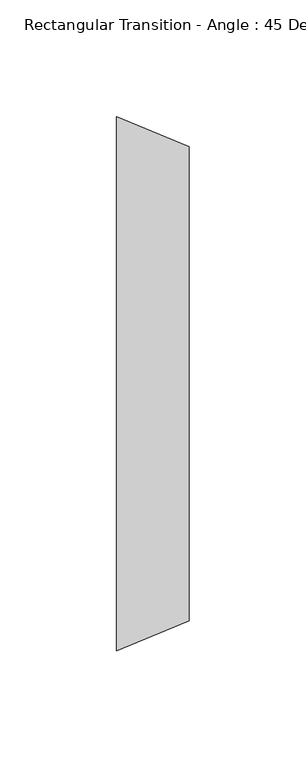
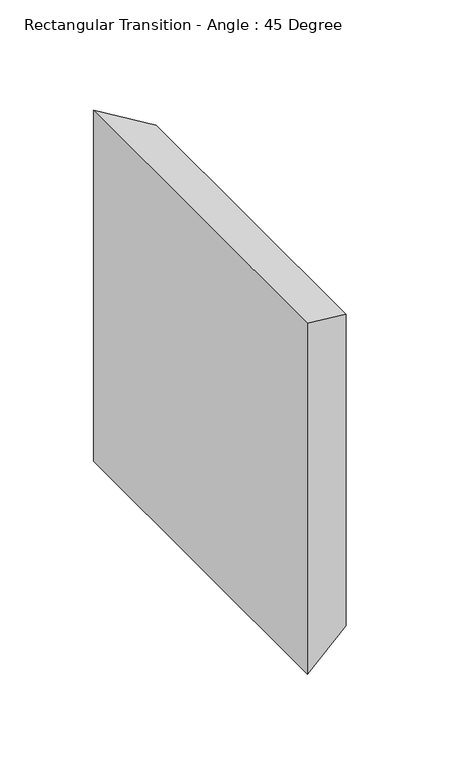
"""IFC4 building model written with IfcOpenShell, lengths in millimetres: duct fitting geometry, Rectangular Transition - Angle : 45 Degree."""

from ifc_helpers import new_model, si_unit, origin, place, context, project, spatial, faceted_brep, source, transform, mapped, element, save


def rectangular_transition_angle_45_degree_83d662b3(model_context):
    return source(origin(), model_context, "Body", "Brep", [
        faceted_brep([(31.143355, -101.6, 101.6), (31.143355, -101.6, -101.6), (31.143355, 101.6, -101.6), (31.143355, 101.6, 101.6), (0.0, -114.5, 114.5), (0.0, 114.5, 114.5), (0.0, 114.5, -114.5), (0.0, -114.5, -114.5)], [[[0, 1, 2, 3]], [[4, 5, 6, 7]], [[4, 7, 1, 0]], [[7, 6, 2, 1]], [[6, 5, 3, 2]], [[5, 4, 0, 3]]]),
    ])


if __name__ == "__main__":
    model = new_model("IFC4")
    model_context = context("Model", 3, world=origin())
    ifc_project = project(units=[si_unit("LENGTHUNIT", "METRE", prefix="MILLI")], contexts=[model_context])
    site = spatial("IfcSite", under=ifc_project)
    building = spatial("IfcBuilding", under=site)
    placement = place(None, origin())
    rectangular_transition_angle_45_degree_shape = rectangular_transition_angle_45_degree_83d662b3(model_context)
    element("IfcDuctFitting", 1, ObjectType="Rectangular Transition - Angle : 45 Degree", at=placement, inside=building, context=model_context, shape_type="MappedRepresentation", body=[
        mapped(rectangular_transition_angle_45_degree_shape, transform((0.0, 0.0, 0.0), x_axis=(1.0, 0.0, 0.0), y_axis=(0.0, 1.0, 0.0), z_axis=(0.0, 0.0, 1.0))),
    ])
    save(model, "model.ifc")
